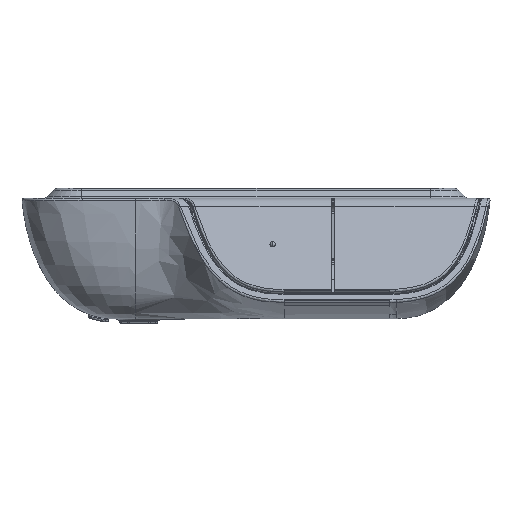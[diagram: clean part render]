
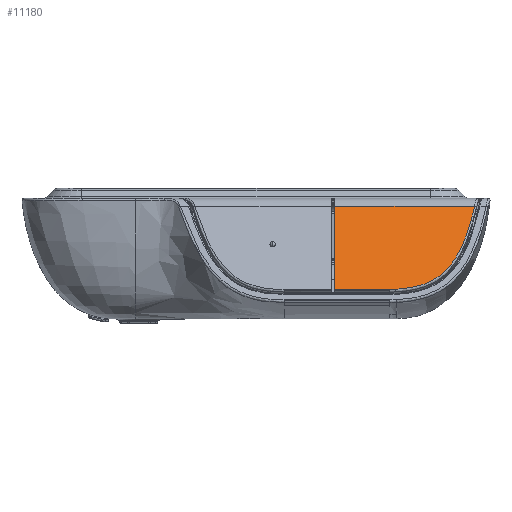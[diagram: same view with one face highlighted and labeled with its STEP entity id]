
A CAD part, top view. The second image highlights one B-rep face of the part: STEP entity #11180.
In plain terms, the highlighted planar face has unit normal (0, 0.391, 0.92).
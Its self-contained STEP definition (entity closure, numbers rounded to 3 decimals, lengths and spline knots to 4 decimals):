
#1045 = DIRECTION ( 'NONE',  ( 0., -0.921, 0.391 ) ) ;
#2478 = EDGE_CURVE ( 'NONE', #45822, #74197, #16051, .T. ) ;
#5007 = CARTESIAN_POINT ( 'NONE',  ( 0.9858, -0.5308, 0.2774 ) ) ;
#5283 = CARTESIAN_POINT ( 'NONE',  ( 1.2861, -0.3291, 0.1918 ) ) ;
#6123 = CARTESIAN_POINT ( 'NONE',  ( 1.0488, -0.5178, 0.2719 ) ) ;
#10408 = DIRECTION ( 'NONE',  ( 1., 0., 0. ) ) ;
#11180 = ADVANCED_FACE ( 'NONE', ( #68568 ), #29532, .T. ) ;
#13789 = CARTESIAN_POINT ( 'NONE',  ( 0.9108, -0.5359, 0.2796 ) ) ;
#16051 = LINE ( 'NONE', #17026, #27344 ) ;
#17026 = CARTESIAN_POINT ( 'NONE',  ( 0., -0.048, 0.0725 ) ) ;
#17196 = LINE ( 'NONE', #17946, #81090 ) ;
#17946 = CARTESIAN_POINT ( 'NONE',  ( 0., -0.5364, 0.2798 ) ) ;
#18229 = CARTESIAN_POINT ( 'NONE',  ( 1.2934, -0.3159, 0.1862 ) ) ;
#19360 = CARTESIAN_POINT ( 'NONE',  ( 1.1776, -0.457, 0.2461 ) ) ;
#19834 = CARTESIAN_POINT ( 'NONE',  ( 0.9213, -0.5355, 0.2794 ) ) ;
#20413 = CARTESIAN_POINT ( 'NONE',  ( 0.9143, -0.5358, 0.2795 ) ) ;
#20690 = CARTESIAN_POINT ( 'NONE',  ( 0.8858, -0.5364, 0.2798 ) ) ;
#21044 = CARTESIAN_POINT ( 'NONE',  ( 0.561, -0.048, 0.0725 ) ) ;
#23480 = CARTESIAN_POINT ( 'NONE',  ( 0., -0.048, 0.0725 ) ) ;
#23792 = CARTESIAN_POINT ( 'NONE',  ( 0.8858, -0.5364, 0.2798 ) ) ;
#24811 = CARTESIAN_POINT ( 'NONE',  ( 1.2343, -0.4046, 0.2239 ) ) ;
#25662 = CARTESIAN_POINT ( 'NONE',  ( 1.3255, -0.2483, 0.1575 ) ) ;
#25959 = CARTESIAN_POINT ( 'NONE',  ( 1.0948, -0.503, 0.2656 ) ) ;
#26154 = CARTESIAN_POINT ( 'NONE',  ( 0.9178, -0.5356, 0.2795 ) ) ;
#26436 = CARTESIAN_POINT ( 'NONE',  ( 0.9003, -0.5362, 0.2797 ) ) ;
#27344 = VECTOR ( 'NONE', #10408, 39.3701 ) ;
#28362 = ORIENTED_EDGE ( 'NONE', *, *, #47217, .T. ) ;
#29457 = AXIS2_PLACEMENT_3D ( 'NONE', #23480, #75085, #75363 ) ;
#29532 = PLANE ( 'NONE',  #29457 ) ;
#30519 = ORIENTED_EDGE ( 'NONE', *, *, #2478, .F. ) ;
#31567 = B_SPLINE_CURVE_WITH_KNOTS ( 'NONE', 3,
 ( #20690, #59577, #46867, #26436, #52906, #65642, #13789, #20413, #26154, #19834 ),
 .UNSPECIFIED., .F., .F.,
 ( 4, 3, 3, 4 ),
 ( 0., 0.0004, 0.0006, 0.0009 ),
 .UNSPECIFIED. ) ;
#31673 = ORIENTED_EDGE ( 'NONE', *, *, #47016, .T. ) ;
#31724 = CARTESIAN_POINT ( 'NONE',  ( 1.3461, -0.1923, 0.1337 ) ) ;
#32296 = EDGE_CURVE ( 'NONE', #66088, #67570, #31567, .T. ) ;
#33017 = B_SPLINE_CURVE_WITH_KNOTS ( 'NONE', 3,
 ( #58517, #51841, #5007, #57944, #6123, #58797, #25959, #44672, #50998, #77838, #19360, #85037, #24811, #57650, #51556, #5283, #18229, #64296, #25662, #31724, #45525, #52136, #38621, #77556 ),
 .UNSPECIFIED., .F., .F.,
 ( 4, 2, 2, 2, 2, 2, 2, 2, 2, 2, 2, 4 ),
 ( 0., 0.0025, 0.0037, 0.0049, 0.0061, 0.0074, 0.0098, 0.0111, 0.0123, 0.0147, 0.0172, 0.0196 ),
 .UNSPECIFIED. ) ;
#37782 = DIRECTION ( 'NONE',  ( 1., 0., 0. ) ) ;
#38621 = CARTESIAN_POINT ( 'NONE',  ( 1.3781, -0.0771, 0.0849 ) ) ;
#39087 = EDGE_LOOP ( 'NONE', ( #31673, #28362, #66357, #66516, #30519 ) ) ;
#40429 = CARTESIAN_POINT ( 'NONE',  ( 0.561, 0.0187, 0.0442 ) ) ;
#44672 = CARTESIAN_POINT ( 'NONE',  ( 1.1238, -0.4902, 0.2602 ) ) ;
#45525 = CARTESIAN_POINT ( 'NONE',  ( 1.3551, -0.1637, 0.1216 ) ) ;
#45822 = VERTEX_POINT ( 'NONE', #21044 ) ;
#46867 = CARTESIAN_POINT ( 'NONE',  ( 0.8955, -0.5363, 0.2798 ) ) ;
#47016 = EDGE_CURVE ( 'NONE', #45822, #59824, #67783, .T. ) ;
#47217 = EDGE_CURVE ( 'NONE', #59824, #66088, #17196, .T. ) ;
#47333 = EDGE_CURVE ( 'NONE', #67570, #74197, #33017, .T. ) ;
#50196 = CARTESIAN_POINT ( 'NONE',  ( 1.3844, -0.048, 0.0725 ) ) ;
#50998 = CARTESIAN_POINT ( 'NONE',  ( 1.1378, -0.4829, 0.2571 ) ) ;
#51556 = CARTESIAN_POINT ( 'NONE',  ( 1.2703, -0.355, 0.2028 ) ) ;
#51841 = CARTESIAN_POINT ( 'NONE',  ( 0.9538, -0.534, 0.2788 ) ) ;
#52136 = CARTESIAN_POINT ( 'NONE',  ( 1.3711, -0.1061, 0.0972 ) ) ;
#52906 = CARTESIAN_POINT ( 'NONE',  ( 0.9038, -0.5361, 0.2797 ) ) ;
#57650 = CARTESIAN_POINT ( 'NONE',  ( 1.2618, -0.3678, 0.2082 ) ) ;
#57944 = CARTESIAN_POINT ( 'NONE',  ( 1.0332, -0.5216, 0.2735 ) ) ;
#58517 = CARTESIAN_POINT ( 'NONE',  ( 0.9213, -0.5355, 0.2794 ) ) ;
#58797 = CARTESIAN_POINT ( 'NONE',  ( 1.0798, -0.5085, 0.2679 ) ) ;
#59577 = CARTESIAN_POINT ( 'NONE',  ( 0.8907, -0.5364, 0.2798 ) ) ;
#59824 = VERTEX_POINT ( 'NONE', #71219 ) ;
#64296 = CARTESIAN_POINT ( 'NONE',  ( 1.3138, -0.2758, 0.1692 ) ) ;
#65642 = CARTESIAN_POINT ( 'NONE',  ( 0.9073, -0.536, 0.2796 ) ) ;
#66088 = VERTEX_POINT ( 'NONE', #23792 ) ;
#66357 = ORIENTED_EDGE ( 'NONE', *, *, #32296, .T. ) ;
#66516 = ORIENTED_EDGE ( 'NONE', *, *, #47333, .T. ) ;
#67570 = VERTEX_POINT ( 'NONE', #75472 ) ;
#67783 = LINE ( 'NONE', #40429, #83249 ) ;
#68568 = FACE_OUTER_BOUND ( 'NONE', #39087, .T. ) ;
#71219 = CARTESIAN_POINT ( 'NONE',  ( 0.561, -0.5364, 0.2798 ) ) ;
#74197 = VERTEX_POINT ( 'NONE', #50196 ) ;
#75085 = DIRECTION ( 'NONE',  ( 0., 0.391, 0.921 ) ) ;
#75363 = DIRECTION ( 'NONE',  ( 0., -0.921, 0.391 ) ) ;
#75472 = CARTESIAN_POINT ( 'NONE',  ( 0.9213, -0.5355, 0.2794 ) ) ;
#77556 = CARTESIAN_POINT ( 'NONE',  ( 1.3844, -0.048, 0.0725 ) ) ;
#77838 = CARTESIAN_POINT ( 'NONE',  ( 1.1647, -0.4663, 0.2501 ) ) ;
#81090 = VECTOR ( 'NONE', #37782, 39.3701 ) ;
#83249 = VECTOR ( 'NONE', #1045, 39.3701 ) ;
#85037 = CARTESIAN_POINT ( 'NONE',  ( 1.2136, -0.4272, 0.2335 ) ) ;
